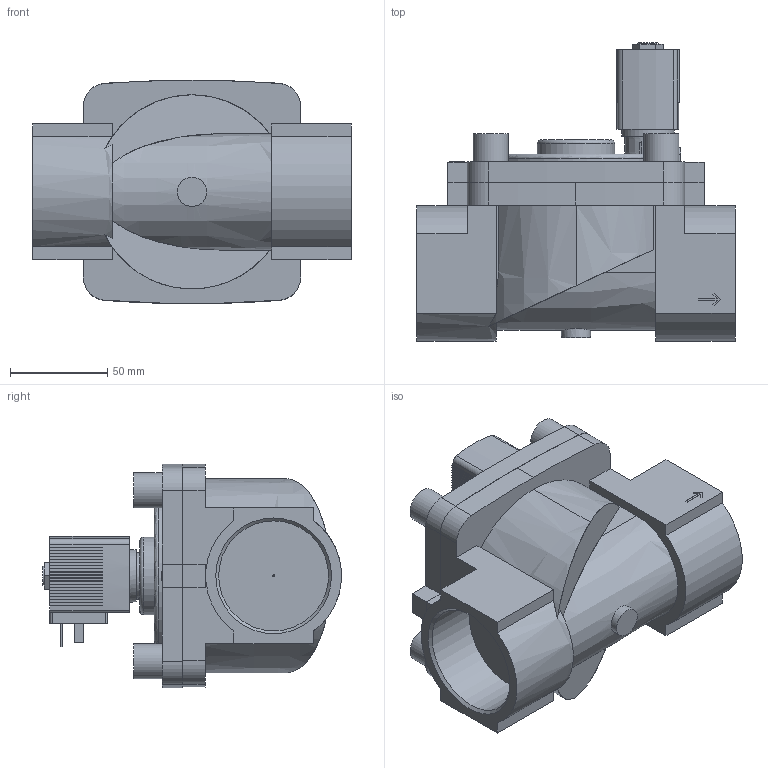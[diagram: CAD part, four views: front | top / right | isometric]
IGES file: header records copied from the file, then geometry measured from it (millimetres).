
Start section: Data from Parasolid IGES Translator 26.0.171, Copyright(c) 2006 Siemens PLM Software. All Rights Reserved.
Global section: file name: 6281-368475-2_2-Way_Solenoid_Valve__Servo-assisted__General_Purpose.igs; native system: By Siemens PLM Incorporated; preprocessor: XPlus GENERIC/IGES 26.0.171; author: Noname; organization: Noname; date: 20240909.113851; units: millimetre
Bounding box: 164 x 153.87 x 115.15 mm (x, y, z)
Surface area: 125766.6 mm2 (no closed solid volume)
Topology: 0 solids, 0 shells, 449 faces, 2528 edges, 2505 vertices
Faces by surface type: extrusion 372, revolution 77
